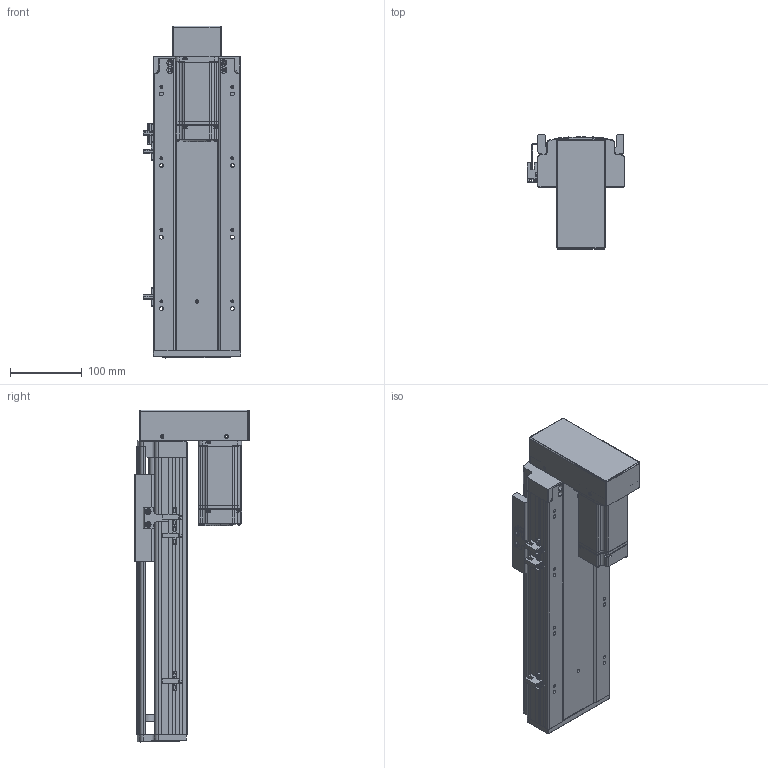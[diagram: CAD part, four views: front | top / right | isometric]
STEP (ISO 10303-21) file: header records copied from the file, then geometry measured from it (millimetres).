
FILE_DESCRIPTION (( 'STEP AP203' ), '1' );
FILE_NAME ('RY120-L2020-300-BK.SLDASM_200.step', '2021-03-12T06:57:10', ( '盈信电脑' ), ( '东莞市道滘镇水果街19号' ), 'SwSTEP 2.0', 'SolidWorks 2012', '' );
FILE_SCHEMA (( 'CONFIG_CONTROL_DESIGN' ));
Products named in the file (15): RY120下折折电机安装板; RY120-L2020-300-BK.SLDASM_200; RY120狟殏萇儂欶; RY120-400W萇儂傷-BK; RY120转拆电端丝杆支撑座(20丝杆，7002轴承); 15; 侂狟400W侜督萇儂; RY120外置感应片(140共用）; 滅袉蝶18-24; 滅袉蝶18-10; 覜茼ん672; RY120-300-BK蛌殏倰第奻裔啣_200; RY120綴裔啣; RY120臏賑輸(20蹟譫); RY120-300-BK蛌殏倰第菁釱_200
Assembly tree (17 placements, depth 4):
  RY120-L2020-300-BK.SLDASM_200
    RY120-300-BK蛌殏倰第菁釱_200
    RY120-300-BK蛌殏倰第奻裔啣_200
    RY120臏賑輸(20蹟譫)
    RY120綴裔啣
    覜茼ん672  x3
    滅袉蝶18-10
    滅袉蝶18-24  x2
    RY120外置感应片(140共用）
    RY120转拆电端丝杆支撑座(20丝杆，7002轴承)
    RY120-400W萇儂傷-BK
      侂狟400W侜督萇儂
        15
      RY120狟殏萇儂欶
      RY120下折折电机安装板
Bounding box: 135.7 x 159.5 x 464 mm (x, y, z)
Volume: 1757351.3 mm3; surface area: 602326.3 mm2
Topology: 16 solids, 16 shells, 2234 faces, 6099 edges, 3918 vertices
Faces by surface type: plane 1186, cylinder 770, cone 173, bspline 105
Entity records: 72985 total; most frequent: CARTESIAN_POINT 19981, ORIENTED_EDGE 10974, DIRECTION 10215, EDGE_CURVE 5487, VERTEX_POINT 3586, LINE 3533, VECTOR 3533, AXIS2_PLACEMENT_3D 3341
